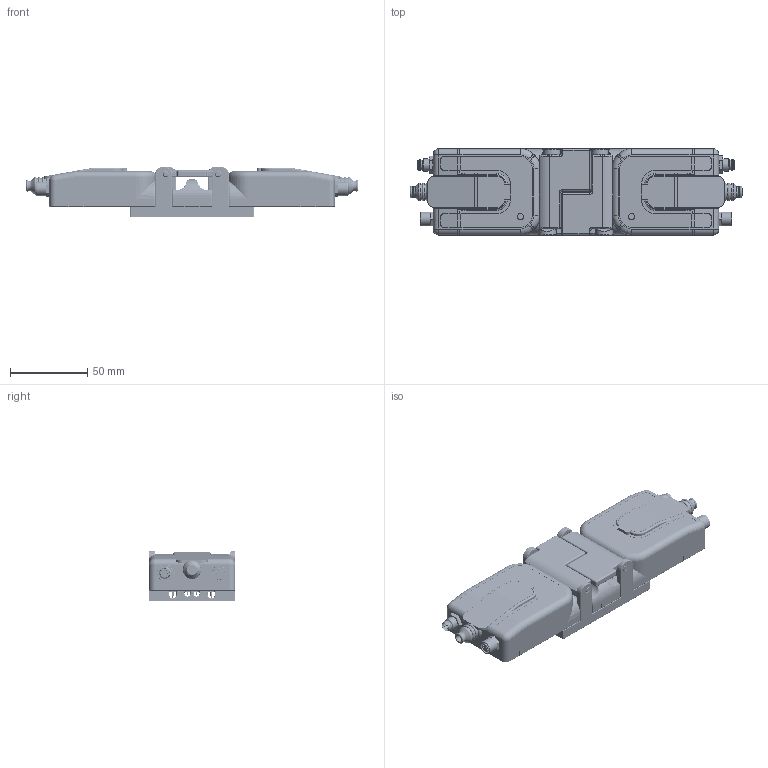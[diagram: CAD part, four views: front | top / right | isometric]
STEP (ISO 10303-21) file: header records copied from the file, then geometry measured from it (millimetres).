
FILE_DESCRIPTION(/* description */ (''),/* implementation_level */ '2;1');
FILE_NAME(/* name */ 'ConveyLinx Ai3 24V RC.step',/* time_stamp */ '2023-04-18T10:54:41-04:00',/* author */ (''),/* organization */ (''),/* preprocessor_version */ 'ST-DEVELOPER v19.2',/* originating_system */ 'Autodesk Translation Framework v11.17.0.187',/* authorisation */ '');
FILE_SCHEMA (('AUTOMOTIVE_DESIGN { 1 0 10303 214 3 1 1 }'));
Products named in the file (16): ConveyLinx Ai3 24V RC; ConveyLinx Ai2 RC Family; ConveyLinx Ai3 Heat Sink RC; ConveyLinx Ai3 Bottom; ConveyLinx Ai3 PCB RC; ConveyLinx Ai3 PCB RC_1; IglaDylga; IglaKysa; ConveyLinx Ai3 Insolator RC; ConveyLinx Ai3 Top; ConveyLinx Ai3 Ethernet; ConveyLinx Ai3 Boot; ConveyLinx Ai3 Base Plate RC; ConveyLinx Ai3 Clips; ConveyLinx Ai3 24V FC Overlay Left; ConveyLinx Ai3 24V FC Overlay Right
Assembly tree (23 placements, depth 4):
  ConveyLinx Ai3 24V RC
    ConveyLinx Ai2 RC Family
      ConveyLinx Ai3 Heat Sink RC
      ConveyLinx Ai3 Bottom
      ConveyLinx Ai3 PCB RC
        ConveyLinx Ai3 PCB RC_1
        IglaDylga  x2
        IglaKysa  x2
      ConveyLinx Ai3 Insolator RC  x4
      ConveyLinx Ai3 Top
      ConveyLinx Ai3 Ethernet  x2
      ConveyLinx Ai3 Boot  x2
      ConveyLinx Ai3 Base Plate RC
      ConveyLinx Ai3 Clips  x2
    ConveyLinx Ai3 24V FC Overlay Left
    ConveyLinx Ai3 24V FC Overlay Right
Bounding box: 215 x 56 x 33 mm (x, y, z)
Volume: 122572.5 mm3; surface area: 139736.1 mm2
Topology: 38 solids, 82 shells, 5167 faces, 13681 edges, 8699 vertices
Faces by surface type: plane 2773, cylinder 1352, bspline 567, torus 282, sphere 120, cone 73
Full cylindrical faces by diameter (mm): 0.217 x1, 0.305 x2, 0.5 x66, 0.689 x11, 0.7 x1, 0.716 x5, 0.762 x4, 0.8 x10, 0.813 x16, 0.9 x14, 1 x22, 1.016 x4, 1.2 x2, 1.3 x3, 1.375 x4, 1.4 x3, 1.5 x6, 1.6 x8, 1.62 x4, 1.626 x4, 2 x14, 2.4 x8, 2.656 x22, 3 x31, 3.05 x2, 3.2 x4, 3.9 x4, 4 x12, 4.1 x6, 4.6 x2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
Entity records: 204979 total; most frequent: CARTESIAN_POINT 82344, ORIENTED_EDGE 25760, DIRECTION 23326, EDGE_CURVE 12880, LINE 8336, VECTOR 8336, VERTEX_POINT 8272, AXIS2_PLACEMENT_3D 7495
